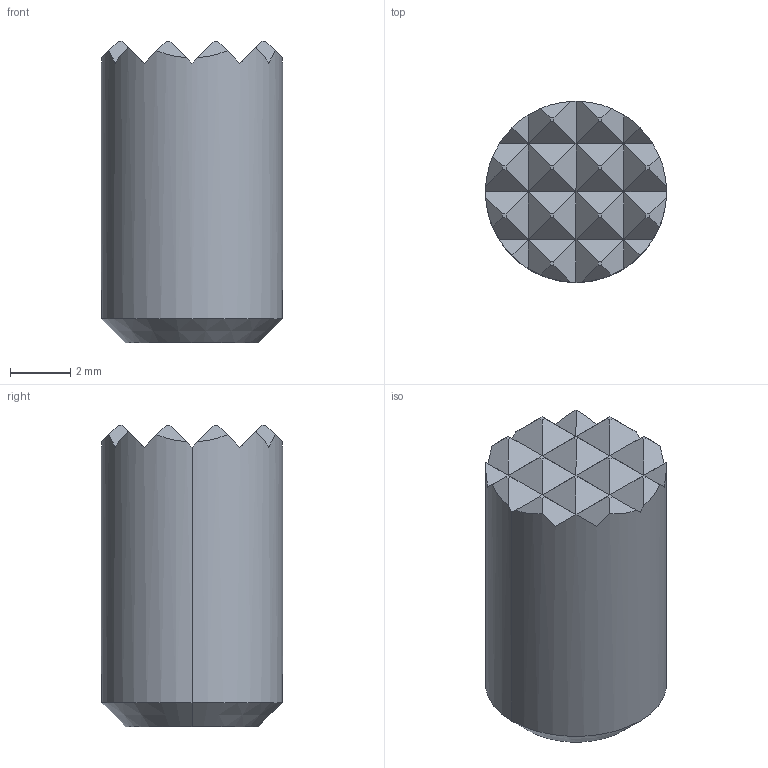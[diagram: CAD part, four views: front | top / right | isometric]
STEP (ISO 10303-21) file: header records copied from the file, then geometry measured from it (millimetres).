
FILE_DESCRIPTION (( 'STEP AP203' ), '1' );
FILE_NAME ('hs-060.STEP', '2021-10-26T01:15:54', ( '' ), ( '' ), 'SwSTEP 2.0', 'SolidWorks 2020', '' );
FILE_SCHEMA (( 'CONFIG_CONTROL_DESIGN' ));
Length unit declared in the file: millimetre
Products named in the file (1): hs-060
Bounding box: 6 x 6 x 10 mm (x, y, z)
Volume: 229.1 mm3; surface area: 285 mm2
Topology: 1 solids, 1 shells, 76 faces, 170 edges, 97 vertices
Faces by surface type: plane 70, cylinder 4, cone 2
Entity records: 2087 total; most frequent: CARTESIAN_POINT 440, ORIENTED_EDGE 340, DIRECTION 300, EDGE_CURVE 170, LINE 130, VECTOR 130, VERTEX_POINT 97, AXIS2_PLACEMENT_3D 85
